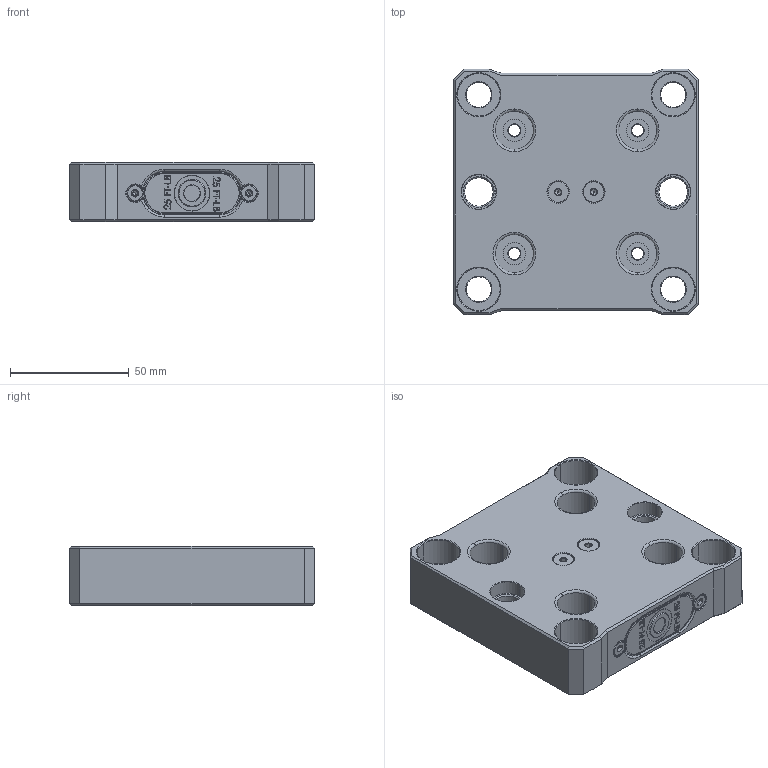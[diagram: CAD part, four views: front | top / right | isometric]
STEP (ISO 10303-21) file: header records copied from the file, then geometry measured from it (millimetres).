
FILE_DESCRIPTION (( 'STEP AP214' ), '1' );
FILE_NAME ('S4GWB-52A.STEP', '2020-11-18T00:25:28', ( '' ), ( '' ), 'SwSTEP 2.0', 'SolidWorks 2018', '' );
FILE_SCHEMA (( 'AUTOMOTIVE_DESIGN' ));
Length unit declared in the file: millimetre
Products named in the file (1): S4GWB-52A
Bounding box: 103.5 x 103.5 x 25 mm (x, y, z)
Volume: 219820.6 mm3; surface area: 40955.8 mm2
Topology: 1 solids, 5 shells, 754 faces, 1911 edges, 1209 vertices
Faces by surface type: plane 392, cone 132, cylinder 112, bspline 84, torus 34
Entity records: 37365 total; most frequent: CARTESIAN_POINT 11774, ORIENTED_EDGE 3790, DIRECTION 3457, EDGE_CURVE 1895, VERTEX_POINT 1209, AXIS2_PLACEMENT_3D 1175, VECTOR 1107, LINE 1107
